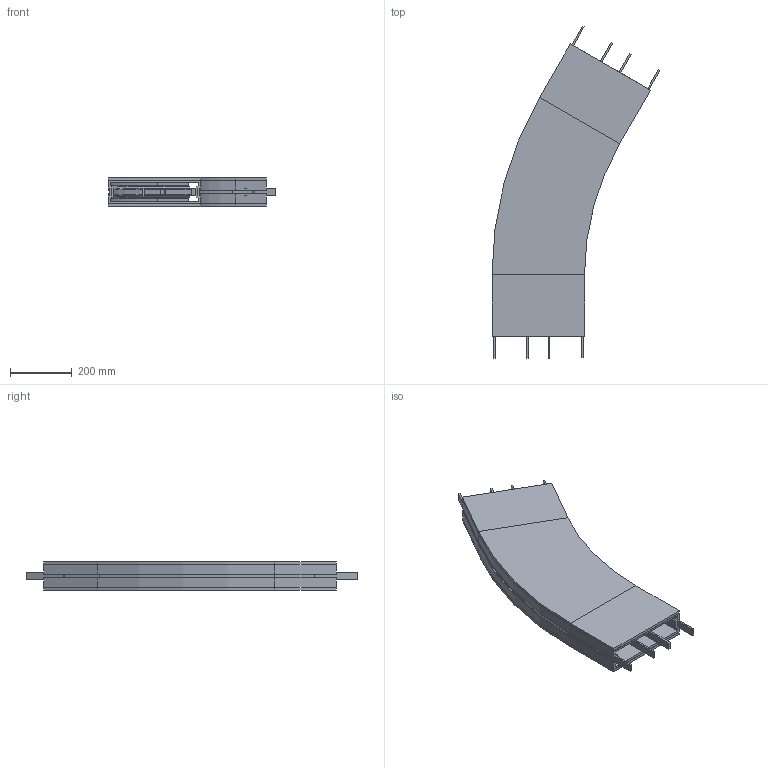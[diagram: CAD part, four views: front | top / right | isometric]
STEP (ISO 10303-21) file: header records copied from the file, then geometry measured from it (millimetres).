
FILE_DESCRIPTION (( 'STEP AP214' ), '1' );
FILE_NAME ('FBBP 30A300R1000L200L200.00.step', '2026-05-29T10:20:28', ( '' ), ( '' ), 'SwSTEP 2.0', 'SolidWorks 2024', '' );
FILE_SCHEMA (( 'AUTOMOTIVE_DESIGN' ));
Length unit declared in the file: millimetre
Products named in the file (1): FBBP 30A300R1000L200L200.00
Bounding box: 544.68 x 1076.4 x 93 mm (x, y, z)
Volume: 10141672 mm3; surface area: 2660004.9 mm2
Topology: 11 solids, 11 shells, 375 faces, 845 edges, 492 vertices
Faces by surface type: plane 274, cone 66, cylinder 30, torus 5
Entity records: 10191 total; most frequent: DIRECTION 1724, CARTESIAN_POINT 1713, ORIENTED_EDGE 1690, EDGE_CURVE 845, LINE 718, VECTOR 718, AXIS2_PLACEMENT_3D 503, VERTEX_POINT 492
